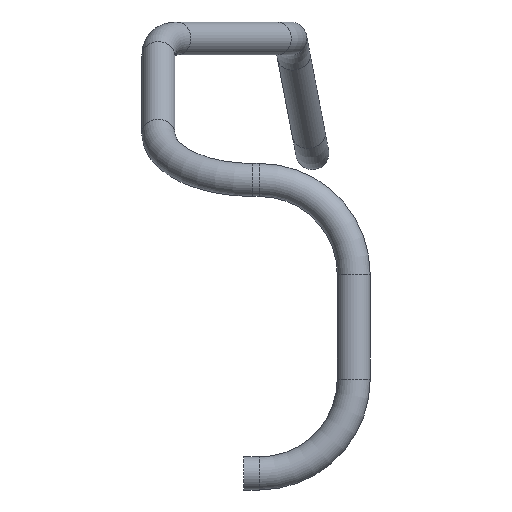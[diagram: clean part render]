
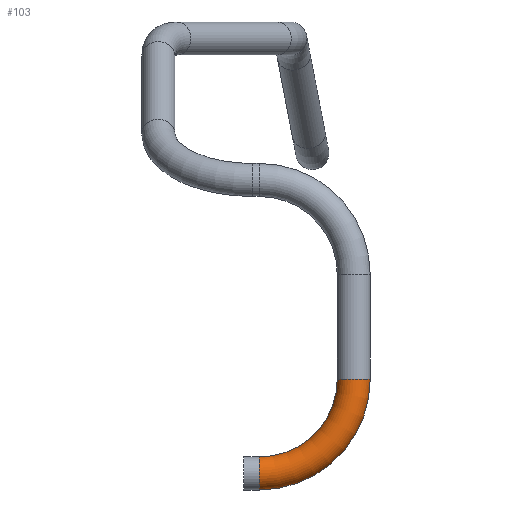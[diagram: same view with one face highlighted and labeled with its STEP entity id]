
A CAD part, front view. The second image highlights one B-rep face of the part: STEP entity #103.
In plain terms, the highlighted toroidal (fillet/blend) face has major radius 3 mm and minor radius 0.525 mm.
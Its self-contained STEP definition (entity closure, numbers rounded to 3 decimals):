
#24 = VERTEX_POINT('',#25);
#25 = CARTESIAN_POINT('',(30.215,-21.04,-16.612));
#32 = CYLINDRICAL_SURFACE('',#33,0.525);
#33 = AXIS2_PLACEMENT_3D('',#34,#35,#36);
#34 = CARTESIAN_POINT('',(29.715,-21.04,-17.137));
#35 = DIRECTION('',(1.,0.,0.));
#36 = DIRECTION('',(0.,0.,1.));
#50 = EDGE_CURVE('',#24,#24,#51,.T.);
#51 = SURFACE_CURVE('',#52,(#57,#64),.PCURVE_S1.);
#52 = CIRCLE('',#53,0.525);
#53 = AXIS2_PLACEMENT_3D('',#54,#55,#56);
#54 = CARTESIAN_POINT('',(30.215,-21.04,-17.137));
#55 = DIRECTION('',(1.,0.,-0.));
#56 = DIRECTION('',(0.,0.,1.));
#57 = PCURVE('',#32,#58);
#58 = DEFINITIONAL_REPRESENTATION('',(#59),#63);
#59 = LINE('',#60,#61);
#60 = CARTESIAN_POINT('',(0.,0.5));
#61 = VECTOR('',#62,1.);
#62 = DIRECTION('',(1.,0.));
#63 = ( GEOMETRIC_REPRESENTATION_CONTEXT(2) 
PARAMETRIC_REPRESENTATION_CONTEXT() REPRESENTATION_CONTEXT('2D SPACE',''
  ) );
#64 = PCURVE('',#65,#70);
#65 = TOROIDAL_SURFACE('',#66,3.,0.525);
#66 = AXIS2_PLACEMENT_3D('',#67,#68,#69);
#67 = CARTESIAN_POINT('',(30.215,-21.04,-14.137));
#68 = DIRECTION('',(0.,-1.,-0.));
#69 = DIRECTION('',(0.,0.,-1.));
#70 = DEFINITIONAL_REPRESENTATION('',(#71),#74);
#71 = B_SPLINE_CURVE_WITH_KNOTS('',1,(#72,#73),.UNSPECIFIED.,.F.,.F.,(2,
    2),(0.,6.283),.PIECEWISE_BEZIER_KNOTS.);
#72 = CARTESIAN_POINT('',(0.,9.425));
#73 = CARTESIAN_POINT('',(0.,3.142));
#74 = ( GEOMETRIC_REPRESENTATION_CONTEXT(2) 
PARAMETRIC_REPRESENTATION_CONTEXT() REPRESENTATION_CONTEXT('2D SPACE',''
  ) );
#103 = ADVANCED_FACE('',(#104),#65,.T.);
#104 = FACE_BOUND('',#105,.T.);
#105 = EDGE_LOOP('',(#106,#129,#155,#156));
#106 = ORIENTED_EDGE('',*,*,#107,.T.);
#107 = EDGE_CURVE('',#24,#108,#110,.T.);
#108 = VERTEX_POINT('',#109);
#109 = CARTESIAN_POINT('',(32.69,-21.04,-14.137));
#110 = SEAM_CURVE('',#111,(#116,#122),.PCURVE_S1.);
#111 = CIRCLE('',#112,2.475);
#112 = AXIS2_PLACEMENT_3D('',#113,#114,#115);
#113 = CARTESIAN_POINT('',(30.215,-21.04,-14.137));
#114 = DIRECTION('',(0.,-1.,-0.));
#115 = DIRECTION('',(0.,0.,-1.));
#116 = PCURVE('',#65,#117);
#117 = DEFINITIONAL_REPRESENTATION('',(#118),#121);
#118 = B_SPLINE_CURVE_WITH_KNOTS('',1,(#119,#120),.UNSPECIFIED.,.F.,.F.,
  (2,2),(0.,1.571),.PIECEWISE_BEZIER_KNOTS.);
#119 = CARTESIAN_POINT('',(0.,3.142));
#120 = CARTESIAN_POINT('',(1.571,3.142));
#121 = ( GEOMETRIC_REPRESENTATION_CONTEXT(2) 
PARAMETRIC_REPRESENTATION_CONTEXT() REPRESENTATION_CONTEXT('2D SPACE',''
  ) );
#122 = PCURVE('',#65,#123);
#123 = DEFINITIONAL_REPRESENTATION('',(#124),#128);
#124 = LINE('',#125,#126);
#125 = CARTESIAN_POINT('',(0.,9.425));
#126 = VECTOR('',#127,1.);
#127 = DIRECTION('',(1.,0.));
#128 = ( GEOMETRIC_REPRESENTATION_CONTEXT(2) 
PARAMETRIC_REPRESENTATION_CONTEXT() REPRESENTATION_CONTEXT('2D SPACE',''
  ) );
#129 = ORIENTED_EDGE('',*,*,#130,.T.);
#130 = EDGE_CURVE('',#108,#108,#131,.T.);
#131 = SURFACE_CURVE('',#132,(#137,#144),.PCURVE_S1.);
#132 = CIRCLE('',#133,0.525);
#133 = AXIS2_PLACEMENT_3D('',#134,#135,#136);
#134 = CARTESIAN_POINT('',(33.215,-21.04,-14.137));
#135 = DIRECTION('',(0.,0.,-1.));
#136 = DIRECTION('',(1.,0.,0.));
#137 = PCURVE('',#65,#138);
#138 = DEFINITIONAL_REPRESENTATION('',(#139),#143);
#139 = LINE('',#140,#141);
#140 = CARTESIAN_POINT('',(1.571,0.));
#141 = VECTOR('',#142,1.);
#142 = DIRECTION('',(0.,1.));
#143 = ( GEOMETRIC_REPRESENTATION_CONTEXT(2) 
PARAMETRIC_REPRESENTATION_CONTEXT() REPRESENTATION_CONTEXT('2D SPACE',''
  ) );
#144 = PCURVE('',#145,#150);
#145 = CYLINDRICAL_SURFACE('',#146,0.525);
#146 = AXIS2_PLACEMENT_3D('',#147,#148,#149);
#147 = CARTESIAN_POINT('',(33.215,-21.04,-14.137));
#148 = DIRECTION('',(0.,0.,1.));
#149 = DIRECTION('',(-1.,0.,0.));
#150 = DEFINITIONAL_REPRESENTATION('',(#151),#154);
#151 = B_SPLINE_CURVE_WITH_KNOTS('',1,(#152,#153),.UNSPECIFIED.,.F.,.F.,
  (2,2),(3.142,9.425),.PIECEWISE_BEZIER_KNOTS.);
#152 = CARTESIAN_POINT('',(6.283,0.));
#153 = CARTESIAN_POINT('',(0.,0.));
#154 = ( GEOMETRIC_REPRESENTATION_CONTEXT(2) 
PARAMETRIC_REPRESENTATION_CONTEXT() REPRESENTATION_CONTEXT('2D SPACE',''
  ) );
#155 = ORIENTED_EDGE('',*,*,#107,.F.);
#156 = ORIENTED_EDGE('',*,*,#50,.T.);
